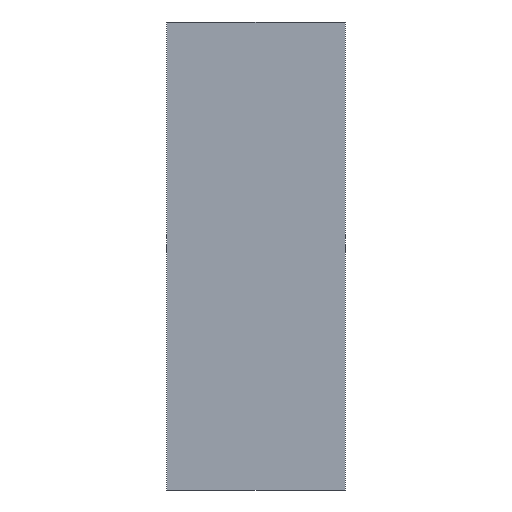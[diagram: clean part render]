
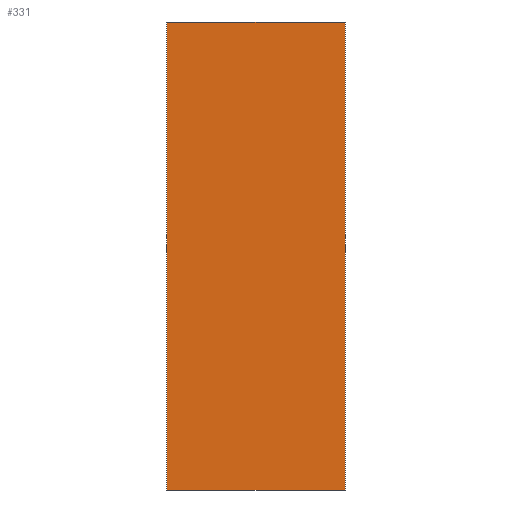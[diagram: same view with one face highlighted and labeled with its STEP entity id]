
A CAD part, front view. The second image highlights one B-rep face of the part: STEP entity #331.
In plain terms, the highlighted planar face has unit normal (0, -1, 0).
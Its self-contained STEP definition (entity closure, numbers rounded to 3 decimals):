
#22 = VERTEX_POINT('',#23);
#23 = CARTESIAN_POINT('',(-425.,-140.188,2.5));
#32 = PLANE('',#33);
#33 = AXIS2_PLACEMENT_3D('',#34,#35,#36);
#34 = CARTESIAN_POINT('',(-425.,-140.188,2.5));
#35 = DIRECTION('',(0.,0.,1.));
#36 = DIRECTION('',(-1.,0.,0.));
#44 = PLANE('',#45);
#45 = AXIS2_PLACEMENT_3D('',#46,#47,#48);
#46 = CARTESIAN_POINT('',(-425.,-140.188,23.5));
#47 = DIRECTION('',(-1.,0.,0.));
#48 = DIRECTION('',(0.,0.,-1.));
#85 = VERTEX_POINT('',#86);
#86 = CARTESIAN_POINT('',(-433.,-140.188,2.5));
#100 = PLANE('',#101);
#101 = AXIS2_PLACEMENT_3D('',#102,#103,#104);
#102 = CARTESIAN_POINT('',(-433.,-140.188,2.5));
#103 = DIRECTION('',(1.,-0.,0.));
#104 = DIRECTION('',(0.,0.,1.));
#112 = EDGE_CURVE('',#22,#85,#113,.T.);
#113 = SURFACE_CURVE('',#114,(#118,#125),.PCURVE_S1.);
#114 = LINE('',#115,#116);
#115 = CARTESIAN_POINT('',(-425.,-140.188,2.5));
#116 = VECTOR('',#117,1.);
#117 = DIRECTION('',(-1.,0.,0.));
#118 = PCURVE('',#32,#119);
#119 = DEFINITIONAL_REPRESENTATION('',(#120),#124);
#120 = LINE('',#121,#122);
#121 = CARTESIAN_POINT('',(0.,0.));
#122 = VECTOR('',#123,1.);
#123 = DIRECTION('',(1.,0.));
#124 = ( GEOMETRIC_REPRESENTATION_CONTEXT(2) 
PARAMETRIC_REPRESENTATION_CONTEXT() REPRESENTATION_CONTEXT('2D SPACE',''
  ) );
#125 = PCURVE('',#126,#131);
#126 = PLANE('',#127);
#127 = AXIS2_PLACEMENT_3D('',#128,#129,#130);
#128 = CARTESIAN_POINT('',(-429.,-140.188,13.));
#129 = DIRECTION('',(0.,1.,0.));
#130 = DIRECTION('',(0.,-0.,1.));
#131 = DEFINITIONAL_REPRESENTATION('',(#132),#136);
#132 = LINE('',#133,#134);
#133 = CARTESIAN_POINT('',(-10.5,4.));
#134 = VECTOR('',#135,1.);
#135 = DIRECTION('',(0.,-1.));
#136 = ( GEOMETRIC_REPRESENTATION_CONTEXT(2) 
PARAMETRIC_REPRESENTATION_CONTEXT() REPRESENTATION_CONTEXT('2D SPACE',''
  ) );
#166 = VERTEX_POINT('',#167);
#167 = CARTESIAN_POINT('',(-433.,-140.188,23.5));
#181 = PLANE('',#182);
#182 = AXIS2_PLACEMENT_3D('',#183,#184,#185);
#183 = CARTESIAN_POINT('',(-433.,-140.188,23.5));
#184 = DIRECTION('',(0.,-0.,-1.));
#185 = DIRECTION('',(1.,0.,0.));
#193 = EDGE_CURVE('',#85,#166,#194,.T.);
#194 = SURFACE_CURVE('',#195,(#199,#206),.PCURVE_S1.);
#195 = LINE('',#196,#197);
#196 = CARTESIAN_POINT('',(-433.,-140.188,2.5));
#197 = VECTOR('',#198,1.);
#198 = DIRECTION('',(0.,0.,1.));
#199 = PCURVE('',#100,#200);
#200 = DEFINITIONAL_REPRESENTATION('',(#201),#205);
#201 = LINE('',#202,#203);
#202 = CARTESIAN_POINT('',(0.,0.));
#203 = VECTOR('',#204,1.);
#204 = DIRECTION('',(1.,0.));
#205 = ( GEOMETRIC_REPRESENTATION_CONTEXT(2) 
PARAMETRIC_REPRESENTATION_CONTEXT() REPRESENTATION_CONTEXT('2D SPACE',''
  ) );
#206 = PCURVE('',#126,#207);
#207 = DEFINITIONAL_REPRESENTATION('',(#208),#212);
#208 = LINE('',#209,#210);
#209 = CARTESIAN_POINT('',(-10.5,-4.));
#210 = VECTOR('',#211,1.);
#211 = DIRECTION('',(1.,0.));
#212 = ( GEOMETRIC_REPRESENTATION_CONTEXT(2) 
PARAMETRIC_REPRESENTATION_CONTEXT() REPRESENTATION_CONTEXT('2D SPACE',''
  ) );
#242 = VERTEX_POINT('',#243);
#243 = CARTESIAN_POINT('',(-425.,-140.188,23.5));
#264 = EDGE_CURVE('',#166,#242,#265,.T.);
#265 = SURFACE_CURVE('',#266,(#270,#277),.PCURVE_S1.);
#266 = LINE('',#267,#268);
#267 = CARTESIAN_POINT('',(-433.,-140.188,23.5));
#268 = VECTOR('',#269,1.);
#269 = DIRECTION('',(1.,0.,0.));
#270 = PCURVE('',#181,#271);
#271 = DEFINITIONAL_REPRESENTATION('',(#272),#276);
#272 = LINE('',#273,#274);
#273 = CARTESIAN_POINT('',(0.,0.));
#274 = VECTOR('',#275,1.);
#275 = DIRECTION('',(1.,0.));
#276 = ( GEOMETRIC_REPRESENTATION_CONTEXT(2) 
PARAMETRIC_REPRESENTATION_CONTEXT() REPRESENTATION_CONTEXT('2D SPACE',''
  ) );
#277 = PCURVE('',#126,#278);
#278 = DEFINITIONAL_REPRESENTATION('',(#279),#283);
#279 = LINE('',#280,#281);
#280 = CARTESIAN_POINT('',(10.5,-4.));
#281 = VECTOR('',#282,1.);
#282 = DIRECTION('',(0.,1.));
#283 = ( GEOMETRIC_REPRESENTATION_CONTEXT(2) 
PARAMETRIC_REPRESENTATION_CONTEXT() REPRESENTATION_CONTEXT('2D SPACE',''
  ) );
#311 = EDGE_CURVE('',#242,#22,#312,.T.);
#312 = SURFACE_CURVE('',#313,(#317,#324),.PCURVE_S1.);
#313 = LINE('',#314,#315);
#314 = CARTESIAN_POINT('',(-425.,-140.188,23.5));
#315 = VECTOR('',#316,1.);
#316 = DIRECTION('',(0.,0.,-1.));
#317 = PCURVE('',#44,#318);
#318 = DEFINITIONAL_REPRESENTATION('',(#319),#323);
#319 = LINE('',#320,#321);
#320 = CARTESIAN_POINT('',(0.,-0.));
#321 = VECTOR('',#322,1.);
#322 = DIRECTION('',(1.,0.));
#323 = ( GEOMETRIC_REPRESENTATION_CONTEXT(2) 
PARAMETRIC_REPRESENTATION_CONTEXT() REPRESENTATION_CONTEXT('2D SPACE',''
  ) );
#324 = PCURVE('',#126,#325);
#325 = DEFINITIONAL_REPRESENTATION('',(#326),#330);
#326 = LINE('',#327,#328);
#327 = CARTESIAN_POINT('',(10.5,4.));
#328 = VECTOR('',#329,1.);
#329 = DIRECTION('',(-1.,0.));
#330 = ( GEOMETRIC_REPRESENTATION_CONTEXT(2) 
PARAMETRIC_REPRESENTATION_CONTEXT() REPRESENTATION_CONTEXT('2D SPACE',''
  ) );
#331 = ADVANCED_FACE('',(#332),#126,.F.);
#332 = FACE_BOUND('',#333,.F.);
#333 = EDGE_LOOP('',(#334,#335,#336,#337));
#334 = ORIENTED_EDGE('',*,*,#112,.T.);
#335 = ORIENTED_EDGE('',*,*,#193,.T.);
#336 = ORIENTED_EDGE('',*,*,#264,.T.);
#337 = ORIENTED_EDGE('',*,*,#311,.T.);
